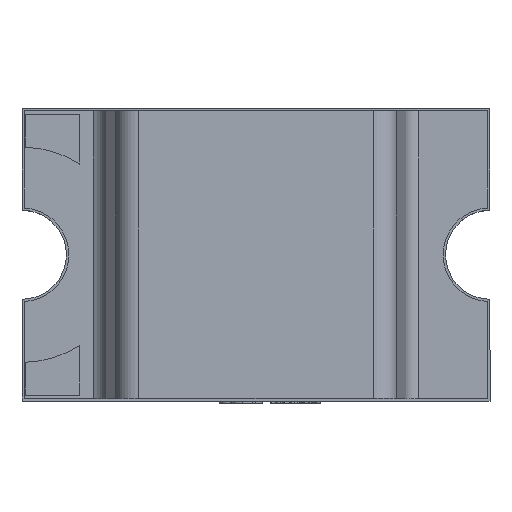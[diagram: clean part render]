
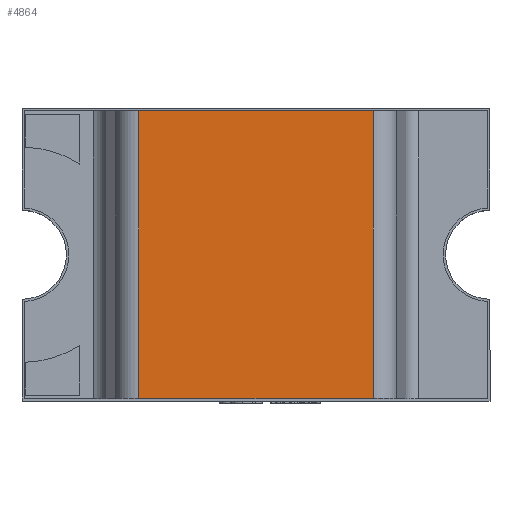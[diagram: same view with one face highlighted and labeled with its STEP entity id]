
A CAD part, top view. The second image highlights one B-rep face of the part: STEP entity #4864.
In plain terms, the highlighted planar face has unit normal (0, 0, 1).
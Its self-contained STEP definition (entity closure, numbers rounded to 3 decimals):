
#1189 = LINE ( 'NONE', #16204, #13128 ) ;
#1410 = DIRECTION ( 'NONE',  ( 0., 1., 0. ) ) ;
#1892 = DIRECTION ( 'NONE',  ( 0., 0., 1. ) ) ;
#2039 = DIRECTION ( 'NONE',  ( 1., 0., 0. ) ) ;
#2278 = CARTESIAN_POINT ( 'NONE',  ( -0.589, 0.615, 0.8 ) ) ;
#2465 = CARTESIAN_POINT ( 'NONE',  ( 0.501, 0.615, 0.8 ) ) ;
#2519 = CARTESIAN_POINT ( 'NONE',  ( 0.501, -0.615, 0.8 ) ) ;
#2711 = VECTOR ( 'NONE', #2039, 1000. ) ;
#2727 = CARTESIAN_POINT ( 'NONE',  ( 0.501, 2.018, 0.8 ) ) ;
#3121 = PLANE ( 'NONE',  #4881 ) ;
#3149 = EDGE_CURVE ( 'NONE', #9874, #11649, #1189, .T. ) ;
#4261 = FACE_OUTER_BOUND ( 'NONE', #11926, .T. ) ;
#4267 = LINE ( 'NONE', #8110, #15610 ) ;
#4864 = ADVANCED_FACE ( 'NONE', ( #4261 ), #3121, .T. ) ;
#4881 = AXIS2_PLACEMENT_3D ( 'NONE', #8195, #1892, #6840 ) ;
#5344 = ORIENTED_EDGE ( 'NONE', *, *, #9372, .T. ) ;
#5895 = ORIENTED_EDGE ( 'NONE', *, *, #3149, .F. ) ;
#6510 = VECTOR ( 'NONE', #1410, 1000. ) ;
#6840 = DIRECTION ( 'NONE',  ( 1., 0., 0. ) ) ;
#7681 = EDGE_CURVE ( 'NONE', #9874, #10722, #14072, .T. ) ;
#7767 = ORIENTED_EDGE ( 'NONE', *, *, #12983, .F. ) ;
#8110 = CARTESIAN_POINT ( 'NONE',  ( -0.501, 2.018, 0.8 ) ) ;
#8195 = CARTESIAN_POINT ( 'NONE',  ( -0.589, 2.018, 0.8 ) ) ;
#9372 = EDGE_CURVE ( 'NONE', #15342, #11649, #4267, .T. ) ;
#9706 = ORIENTED_EDGE ( 'NONE', *, *, #7681, .T. ) ;
#9874 = VERTEX_POINT ( 'NONE', #2519 ) ;
#10159 = DIRECTION ( 'NONE',  ( -1., 0., 0. ) ) ;
#10625 = DIRECTION ( 'NONE',  ( 0., -1., 0. ) ) ;
#10722 = VERTEX_POINT ( 'NONE', #2465 ) ;
#11263 = CARTESIAN_POINT ( 'NONE',  ( -0.501, -0.615, 0.8 ) ) ;
#11649 = VERTEX_POINT ( 'NONE', #11263 ) ;
#11926 = EDGE_LOOP ( 'NONE', ( #5895, #9706, #7767, #5344 ) ) ;
#12983 = EDGE_CURVE ( 'NONE', #15342, #10722, #16122, .T. ) ;
#13128 = VECTOR ( 'NONE', #10159, 1000. ) ;
#14072 = LINE ( 'NONE', #2727, #6510 ) ;
#14918 = CARTESIAN_POINT ( 'NONE',  ( -0.501, 0.615, 0.8 ) ) ;
#15342 = VERTEX_POINT ( 'NONE', #14918 ) ;
#15610 = VECTOR ( 'NONE', #10625, 1000. ) ;
#16122 = LINE ( 'NONE', #2278, #2711 ) ;
#16204 = CARTESIAN_POINT ( 'NONE',  ( -0.589, -0.615, 0.8 ) ) ;
